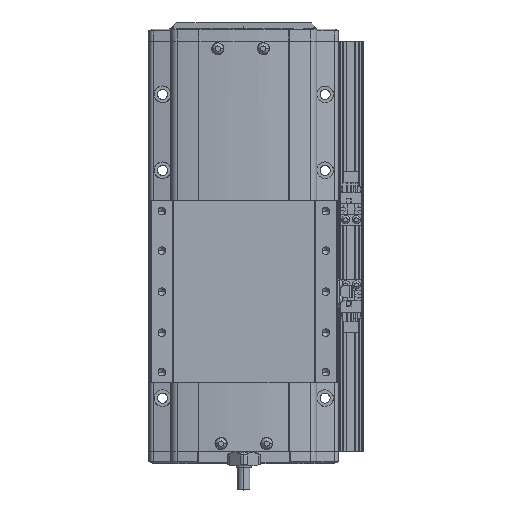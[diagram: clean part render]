
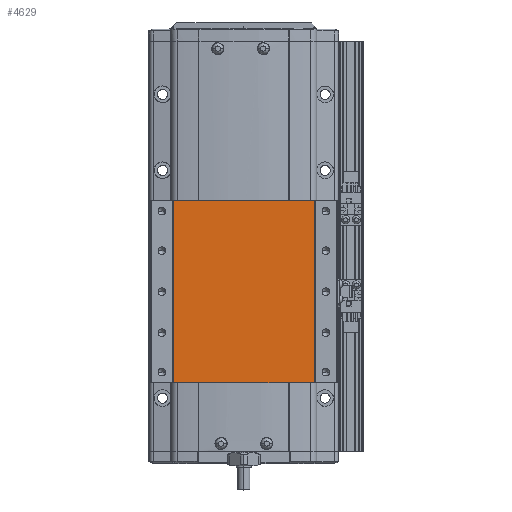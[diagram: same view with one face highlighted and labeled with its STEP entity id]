
A CAD part, top view. The second image highlights one B-rep face of the part: STEP entity #4629.
In plain terms, the highlighted planar face has unit normal (0, 0, 1).
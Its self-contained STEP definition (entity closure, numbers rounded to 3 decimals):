
#4629=ADVANCED_FACE('',(#10235),#10236,.F.);
#10235=FACE_OUTER_BOUND('',#18022,.T.);
#10236=PLANE('',#18023);
#18022=EDGE_LOOP('',(#31934,#31935,#31936,#31937));
#18023=AXIS2_PLACEMENT_3D('',#31938,#31939,#31940);
#31934=ORIENTED_EDGE('',*,*,#45606,.F.);
#31935=ORIENTED_EDGE('',*,*,#43086,.F.);
#31936=ORIENTED_EDGE('',*,*,#46908,.F.);
#31937=ORIENTED_EDGE('',*,*,#43430,.T.);
#31938=CARTESIAN_POINT('',(-300.,42.222,36.5));
#31939=DIRECTION('',(0.,0.,-1.0));
#31940=DIRECTION('',(-1.0,0.,0.));
#43086=EDGE_CURVE('',#52071,#52067,#52073,.T.);
#43430=EDGE_CURVE('',#52635,#52632,#52636,.T.);
#45606=EDGE_CURVE('',#52067,#52632,#56167,.T.);
#46908=EDGE_CURVE('',#52635,#52071,#57969,.T.);
#52067=VERTEX_POINT('',#64824);
#52071=VERTEX_POINT('',#64829);
#52073=LINE('',#64831,#64832);
#52632=VERTEX_POINT('',#65617);
#52635=VERTEX_POINT('',#65620);
#52636=LINE('',#65621,#65622);
#56167=LINE('',#70863,#70864);
#57969=LINE('',#73712,#73713);
#64824=CARTESIAN_POINT('',(-346.376,162.222,36.5));
#64829=CARTESIAN_POINT('',(-346.376,42.222,36.5));
#64831=CARTESIAN_POINT('',(-346.376,42.222,36.5));
#64832=VECTOR('',#79570,10.0);
#65617=CARTESIAN_POINT('',(-253.624,162.222,36.5));
#65620=CARTESIAN_POINT('',(-253.624,42.222,36.5));
#65621=CARTESIAN_POINT('',(-253.624,42.222,36.5));
#65622=VECTOR('',#79978,10.0);
#70863=CARTESIAN_POINT('',(-253.624,162.222,36.5));
#70864=VECTOR('',#82647,10.0);
#73712=CARTESIAN_POINT('',(-253.624,42.222,36.5));
#73713=VECTOR('',#84090,10.0);
#79570=DIRECTION('',(0.,1.0,0.));
#79978=DIRECTION('',(0.,1.0,0.));
#82647=DIRECTION('',(1.0,0.,0.));
#84090=DIRECTION('',(-1.0,0.,0.));
